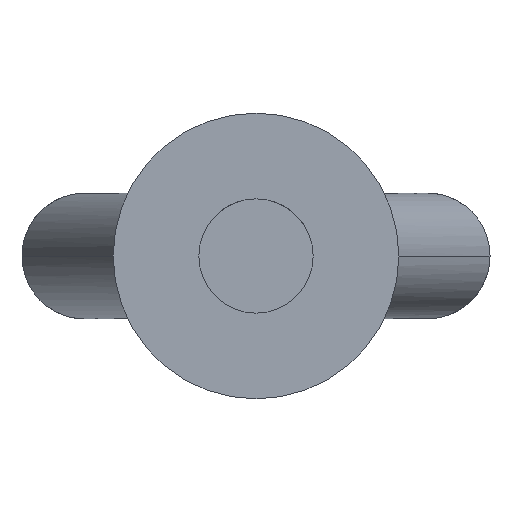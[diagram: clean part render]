
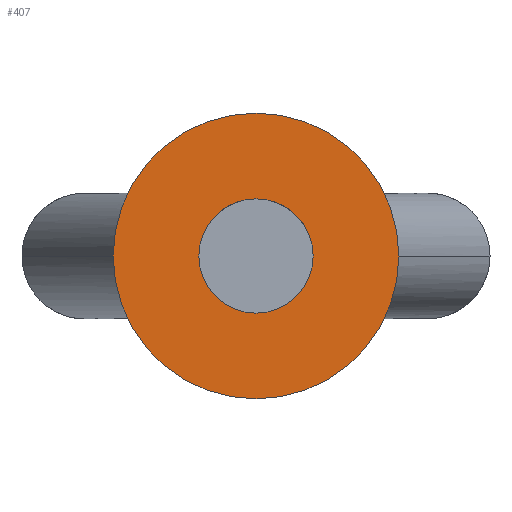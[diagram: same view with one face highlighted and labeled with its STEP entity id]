
A CAD part, left-side view. The second image highlights one B-rep face of the part: STEP entity #407.
In plain terms, the highlighted planar face has unit normal (-1, 0, 0).
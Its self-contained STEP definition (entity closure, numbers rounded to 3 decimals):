
#241 = AXIS2_PLACEMENT_3D ( 'NONE', #256, #255, #254 ) ;
#242 = CIRCLE ( 'NONE', #241, 2.5 ) ;
#249 = CARTESIAN_POINT ( 'NONE',  ( 20., 0., -2.5 ) ) ;
#254 = DIRECTION ( 'NONE',  ( 0., 0., -1. ) ) ;
#255 = DIRECTION ( 'NONE',  ( 1., 0., 0. ) ) ;
#256 = CARTESIAN_POINT ( 'NONE',  ( 20., 0., 0. ) ) ;
#368 = EDGE_CURVE ( 'NONE', #717, #369, #617, .T. ) ;
#369 = VERTEX_POINT ( 'NONE', #612 ) ;
#375 = EDGE_CURVE ( 'NONE', #376, #377, #563, .T. ) ;
#376 = VERTEX_POINT ( 'NONE', #558 ) ;
#377 = VERTEX_POINT ( 'NONE', #557 ) ;
#389 = EDGE_CURVE ( 'NONE', #377, #376, #654, .T. ) ;
#390 = EDGE_LOOP ( 'NONE', ( #711, #709 ) ) ;
#407 = ADVANCED_FACE ( 'NONE', ( #674, #673 ), #681, .F. ) ;
#557 = CARTESIAN_POINT ( 'NONE',  ( 20., 0., 1. ) ) ;
#558 = CARTESIAN_POINT ( 'NONE',  ( 20., 0., -1. ) ) ;
#559 = DIRECTION ( 'NONE',  ( 0., 0., -1. ) ) ;
#560 = DIRECTION ( 'NONE',  ( 1., 0., 0. ) ) ;
#561 = CARTESIAN_POINT ( 'NONE',  ( 20., 0., 0. ) ) ;
#562 = AXIS2_PLACEMENT_3D ( 'NONE', #561, #560, #559 ) ;
#563 = CIRCLE ( 'NONE', #562, 1. ) ;
#612 = CARTESIAN_POINT ( 'NONE',  ( 20., 0., 2.5 ) ) ;
#613 = DIRECTION ( 'NONE',  ( 0., 0., -1. ) ) ;
#614 = DIRECTION ( 'NONE',  ( 1., 0., 0. ) ) ;
#615 = CARTESIAN_POINT ( 'NONE',  ( 20., 0., 0. ) ) ;
#616 = AXIS2_PLACEMENT_3D ( 'NONE', #615, #614, #613 ) ;
#617 = CIRCLE ( 'NONE', #616, 2.5 ) ;
#629 = DIRECTION ( 'NONE',  ( 1., 0., 0. ) ) ;
#634 = CARTESIAN_POINT ( 'NONE',  ( 20., 0., 0. ) ) ;
#654 = CIRCLE ( 'NONE', #682, 1. ) ;
#670 = DIRECTION ( 'NONE',  ( 0., 0., -1. ) ) ;
#673 = FACE_BOUND ( 'NONE', #710, .T. ) ;
#674 = FACE_OUTER_BOUND ( 'NONE', #390, .T. ) ;
#677 = DIRECTION ( 'NONE',  ( 0., 0., -1. ) ) ;
#678 = DIRECTION ( 'NONE',  ( 1., 0., 0. ) ) ;
#679 = CARTESIAN_POINT ( 'NONE',  ( 20., 0., 0. ) ) ;
#680 = AXIS2_PLACEMENT_3D ( 'NONE', #679, #678, #677 ) ;
#681 = PLANE ( 'NONE',  #680 ) ;
#682 = AXIS2_PLACEMENT_3D ( 'NONE', #634, #629, #670 ) ;
#707 = ORIENTED_EDGE ( 'NONE', *, *, #375, .T. ) ;
#708 = ORIENTED_EDGE ( 'NONE', *, *, #389, .T. ) ;
#709 = ORIENTED_EDGE ( 'NONE', *, *, #368, .F. ) ;
#710 = EDGE_LOOP ( 'NONE', ( #708, #707 ) ) ;
#711 = ORIENTED_EDGE ( 'NONE', *, *, #712, .F. ) ;
#712 = EDGE_CURVE ( 'NONE', #369, #717, #242, .T. ) ;
#717 = VERTEX_POINT ( 'NONE', #249 ) ;
